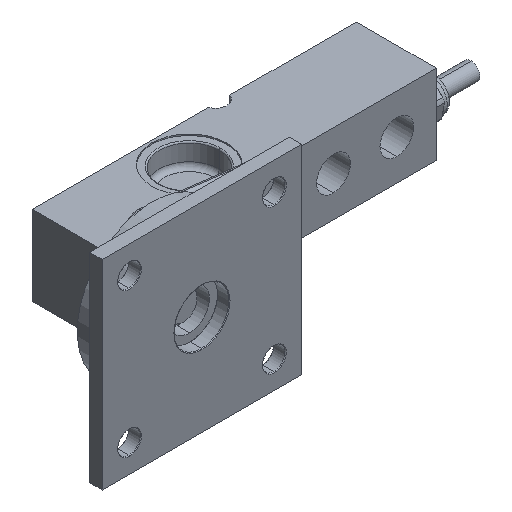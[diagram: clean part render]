
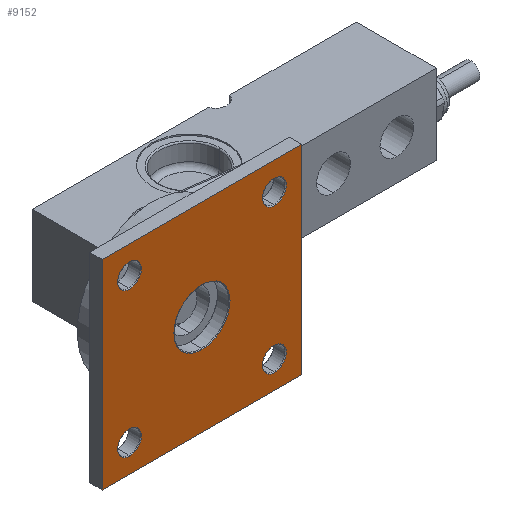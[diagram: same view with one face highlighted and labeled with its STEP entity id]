
A CAD part, isometric view. The second image highlights one B-rep face of the part: STEP entity #9152.
In plain terms, the highlighted planar face has unit normal (0, -1, 0).
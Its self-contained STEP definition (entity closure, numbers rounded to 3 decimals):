
#328 = EDGE_LOOP ( 'NONE', ( #4801, #4796 ) ) ;
#357 = CARTESIAN_POINT ( 'NONE',  ( -32.147, 22.894, -40. ) ) ;
#360 = CARTESIAN_POINT ( 'NONE',  ( -72.147, 22.894, 11.25 ) ) ;
#1391 = CARTESIAN_POINT ( 'NONE',  ( -32.147, 22.894, 40. ) ) ;
#1399 = PLANE ( 'NONE',  #6350 ) ;
#1411 = DIRECTION ( 'NONE',  ( 0., 1., 0. ) ) ;
#1412 = DIRECTION ( 'NONE',  ( 0., 0., 1. ) ) ;
#2163 = CARTESIAN_POINT ( 'NONE',  ( -101.147, 22.894, 29. ) ) ;
#2164 = DIRECTION ( 'NONE',  ( 0., 1., 0. ) ) ;
#2165 = DIRECTION ( 'NONE',  ( 0., 0., 1. ) ) ;
#2166 = CARTESIAN_POINT ( 'NONE',  ( -43.147, 22.894, 29. ) ) ;
#2168 = DIRECTION ( 'NONE',  ( 0., 1., 0. ) ) ;
#2169 = DIRECTION ( 'NONE',  ( 0., 0., 1. ) ) ;
#2200 = CARTESIAN_POINT ( 'NONE',  ( -72.147, 22.894, 0. ) ) ;
#2206 = DIRECTION ( 'NONE',  ( 0., 1., 0. ) ) ;
#2207 = DIRECTION ( 'NONE',  ( 0., 0., 1. ) ) ;
#2274 = CARTESIAN_POINT ( 'NONE',  ( -43.147, 22.894, -29. ) ) ;
#2277 = DIRECTION ( 'NONE',  ( 0., 1., 0. ) ) ;
#2279 = DIRECTION ( 'NONE',  ( 0., 0., 1. ) ) ;
#2301 = CARTESIAN_POINT ( 'NONE',  ( -101.147, 22.894, -29. ) ) ;
#2304 = DIRECTION ( 'NONE',  ( 0., 1., 0. ) ) ;
#2306 = DIRECTION ( 'NONE',  ( 0., 0., 1. ) ) ;
#2979 = CARTESIAN_POINT ( 'NONE',  ( -32.147, 22.894, -40. ) ) ;
#2988 = DIRECTION ( 'NONE',  ( 0., 0., -1. ) ) ;
#3001 = CARTESIAN_POINT ( 'NONE',  ( -112.147, 22.894, -40. ) ) ;
#3002 = DIRECTION ( 'NONE',  ( -1., 0., 0. ) ) ;
#3003 = CARTESIAN_POINT ( 'NONE',  ( -112.147, 22.894, -40. ) ) ;
#3004 = DIRECTION ( 'NONE',  ( 0., 0., 1. ) ) ;
#3018 = CARTESIAN_POINT ( 'NONE',  ( -112.147, 22.894, 40. ) ) ;
#3019 = DIRECTION ( 'NONE',  ( 1., 0., 0. ) ) ;
#3020 = CARTESIAN_POINT ( 'NONE',  ( -43.147, 22.894, -29. ) ) ;
#3023 = CARTESIAN_POINT ( 'NONE',  ( -72.147, 22.894, 0. ) ) ;
#3026 = CARTESIAN_POINT ( 'NONE',  ( -43.147, 22.894, 29. ) ) ;
#3027 = DIRECTION ( 'NONE',  ( 0., 1., 0. ) ) ;
#3028 = DIRECTION ( 'NONE',  ( 0., 0., 1. ) ) ;
#3029 = CARTESIAN_POINT ( 'NONE',  ( -101.147, 22.894, -29. ) ) ;
#3030 = DIRECTION ( 'NONE',  ( 0., 1., 0. ) ) ;
#3031 = DIRECTION ( 'NONE',  ( 0., 0., 1. ) ) ;
#3032 = CARTESIAN_POINT ( 'NONE',  ( -101.147, 22.894, 29. ) ) ;
#3033 = DIRECTION ( 'NONE',  ( 0., 1., 0. ) ) ;
#3034 = DIRECTION ( 'NONE',  ( 0., 0., 1. ) ) ;
#3036 = DIRECTION ( 'NONE',  ( 0., 1., 0. ) ) ;
#3037 = DIRECTION ( 'NONE',  ( 0., 0., 1. ) ) ;
#3041 = DIRECTION ( 'NONE',  ( 0., 1., 0. ) ) ;
#3042 = DIRECTION ( 'NONE',  ( 0., 0., 1. ) ) ;
#3794 = CIRCLE ( 'NONE', #6570, 4.75 ) ;
#3797 = CIRCLE ( 'NONE', #6567, 4.75 ) ;
#3818 = CIRCLE ( 'NONE', #6569, 11.25 ) ;
#3839 = CIRCLE ( 'NONE', #6583, 4.75 ) ;
#3847 = CIRCLE ( 'NONE', #6588, 4.75 ) ;
#3881 = LINE ( 'NONE', #2979, #3885 ) ;
#3885 = VECTOR ( 'NONE', #2988, 1000. ) ;
#3888 = VECTOR ( 'NONE', #3002, 1000. ) ;
#3890 = LINE ( 'NONE', #3001, #3888 ) ;
#3894 = LINE ( 'NONE', #3018, #3902 ) ;
#3898 = LINE ( 'NONE', #3003, #3899 ) ;
#3899 = VECTOR ( 'NONE', #3004, 1000. ) ;
#3902 = VECTOR ( 'NONE', #3019, 1000. ) ;
#3909 = CIRCLE ( 'NONE', #6602, 4.75 ) ;
#3910 = CIRCLE ( 'NONE', #6603, 11.25 ) ;
#3912 = CIRCLE ( 'NONE', #6604, 4.75 ) ;
#3913 = CIRCLE ( 'NONE', #6605, 4.75 ) ;
#3914 = CIRCLE ( 'NONE', #6607, 4.75 ) ;
#4055 = CARTESIAN_POINT ( 'NONE',  ( -101.147, 22.894, -24.25 ) ) ;
#4071 = CARTESIAN_POINT ( 'NONE',  ( -112.147, 22.894, -40. ) ) ;
#4167 = CARTESIAN_POINT ( 'NONE',  ( -72.147, 22.894, -11.25 ) ) ;
#4191 = CARTESIAN_POINT ( 'NONE',  ( -32.147, 22.894, 40. ) ) ;
#4199 = CARTESIAN_POINT ( 'NONE',  ( -112.147, 22.894, 40. ) ) ;
#4204 = CARTESIAN_POINT ( 'NONE',  ( -43.147, 22.894, 33.75 ) ) ;
#4208 = CARTESIAN_POINT ( 'NONE',  ( -101.147, 22.894, 24.25 ) ) ;
#4214 = CARTESIAN_POINT ( 'NONE',  ( -101.147, 22.894, 33.75 ) ) ;
#4247 = CARTESIAN_POINT ( 'NONE',  ( -101.147, 22.894, -33.75 ) ) ;
#4283 = CARTESIAN_POINT ( 'NONE',  ( -43.147, 22.894, -33.75 ) ) ;
#4290 = CARTESIAN_POINT ( 'NONE',  ( -43.147, 22.894, 24.25 ) ) ;
#4291 = CARTESIAN_POINT ( 'NONE',  ( -43.147, 22.894, -24.25 ) ) ;
#4789 = ORIENTED_EDGE ( 'NONE', *, *, #9957, .T. ) ;
#4795 = ORIENTED_EDGE ( 'NONE', *, *, #9917, .T. ) ;
#4796 = ORIENTED_EDGE ( 'NONE', *, *, #9958, .T. ) ;
#4798 = ORIENTED_EDGE ( 'NONE', *, *, #9960, .T. ) ;
#4800 = ORIENTED_EDGE ( 'NONE', *, *, #9912, .T. ) ;
#4801 = ORIENTED_EDGE ( 'NONE', *, *, #9896, .T. ) ;
#5030 = FACE_BOUND ( 'NONE', #7417, .T. ) ;
#5041 = FACE_BOUND ( 'NONE', #5734, .T. ) ;
#5046 = FACE_BOUND ( 'NONE', #328, .T. ) ;
#5047 = FACE_OUTER_BOUND ( 'NONE', #5735, .T. ) ;
#5049 = FACE_BOUND ( 'NONE', #5732, .T. ) ;
#5051 = FACE_BOUND ( 'NONE', #5733, .T. ) ;
#5732 = EDGE_LOOP ( 'NONE', ( #4800, #4789 ) ) ;
#5733 = EDGE_LOOP ( 'NONE', ( #7603, #7604 ) ) ;
#5734 = EDGE_LOOP ( 'NONE', ( #7606, #7605 ) ) ;
#5735 = EDGE_LOOP ( 'NONE', ( #7596, #7579, #7551, #7580 ) ) ;
#6350 = AXIS2_PLACEMENT_3D ( 'NONE', #1391, #1411, #1412 ) ;
#6567 = AXIS2_PLACEMENT_3D ( 'NONE', #2166, #2168, #2169 ) ;
#6569 = AXIS2_PLACEMENT_3D ( 'NONE', #2200, #2206, #2207 ) ;
#6570 = AXIS2_PLACEMENT_3D ( 'NONE', #2163, #2164, #2165 ) ;
#6583 = AXIS2_PLACEMENT_3D ( 'NONE', #2274, #2277, #2279 ) ;
#6588 = AXIS2_PLACEMENT_3D ( 'NONE', #2301, #2304, #2306 ) ;
#6602 = AXIS2_PLACEMENT_3D ( 'NONE', #3020, #3027, #3028 ) ;
#6603 = AXIS2_PLACEMENT_3D ( 'NONE', #3023, #3030, #3031 ) ;
#6604 = AXIS2_PLACEMENT_3D ( 'NONE', #3026, #3033, #3034 ) ;
#6605 = AXIS2_PLACEMENT_3D ( 'NONE', #3029, #3036, #3037 ) ;
#6607 = AXIS2_PLACEMENT_3D ( 'NONE', #3032, #3041, #3042 ) ;
#7417 = EDGE_LOOP ( 'NONE', ( #4795, #4798 ) ) ;
#7551 = ORIENTED_EDGE ( 'NONE', *, *, #9949, .F. ) ;
#7579 = ORIENTED_EDGE ( 'NONE', *, *, #9954, .F. ) ;
#7580 = ORIENTED_EDGE ( 'NONE', *, *, #9948, .F. ) ;
#7596 = ORIENTED_EDGE ( 'NONE', *, *, #9941, .F. ) ;
#7603 = ORIENTED_EDGE ( 'NONE', *, *, #9881, .T. ) ;
#7604 = ORIENTED_EDGE ( 'NONE', *, *, #9959, .T. ) ;
#7605 = ORIENTED_EDGE ( 'NONE', *, *, #9962, .T. ) ;
#7606 = ORIENTED_EDGE ( 'NONE', *, *, #9879, .T. ) ;
#8765 = VERTEX_POINT ( 'NONE', #4167 ) ;
#8790 = VERTEX_POINT ( 'NONE', #4247 ) ;
#8823 = VERTEX_POINT ( 'NONE', #4214 ) ;
#8829 = VERTEX_POINT ( 'NONE', #4208 ) ;
#8833 = VERTEX_POINT ( 'NONE', #4204 ) ;
#8838 = VERTEX_POINT ( 'NONE', #4199 ) ;
#8846 = VERTEX_POINT ( 'NONE', #4191 ) ;
#8882 = VERTEX_POINT ( 'NONE', #4071 ) ;
#8895 = VERTEX_POINT ( 'NONE', #4283 ) ;
#8899 = VERTEX_POINT ( 'NONE', #4290 ) ;
#8900 = VERTEX_POINT ( 'NONE', #4291 ) ;
#8905 = VERTEX_POINT ( 'NONE', #4055 ) ;
#8935 = VERTEX_POINT ( 'NONE', #357 ) ;
#8938 = VERTEX_POINT ( 'NONE', #360 ) ;
#9152 = ADVANCED_FACE ( 'NONE', ( #5046, #5030, #5049, #5051, #5041, #5047 ), #1399, .F. ) ;
#9879 = EDGE_CURVE ( 'NONE', #8829, #8823, #3794, .T. ) ;
#9881 = EDGE_CURVE ( 'NONE', #8899, #8833, #3797, .T. ) ;
#9896 = EDGE_CURVE ( 'NONE', #8765, #8938, #3818, .T. ) ;
#9912 = EDGE_CURVE ( 'NONE', #8895, #8900, #3839, .T. ) ;
#9917 = EDGE_CURVE ( 'NONE', #8790, #8905, #3847, .T. ) ;
#9941 = EDGE_CURVE ( 'NONE', #8846, #8935, #3881, .T. ) ;
#9948 = EDGE_CURVE ( 'NONE', #8935, #8882, #3890, .T. ) ;
#9949 = EDGE_CURVE ( 'NONE', #8882, #8838, #3898, .T. ) ;
#9954 = EDGE_CURVE ( 'NONE', #8838, #8846, #3894, .T. ) ;
#9957 = EDGE_CURVE ( 'NONE', #8900, #8895, #3909, .T. ) ;
#9958 = EDGE_CURVE ( 'NONE', #8938, #8765, #3910, .T. ) ;
#9959 = EDGE_CURVE ( 'NONE', #8833, #8899, #3912, .T. ) ;
#9960 = EDGE_CURVE ( 'NONE', #8905, #8790, #3913, .T. ) ;
#9962 = EDGE_CURVE ( 'NONE', #8823, #8829, #3914, .T. ) ;
